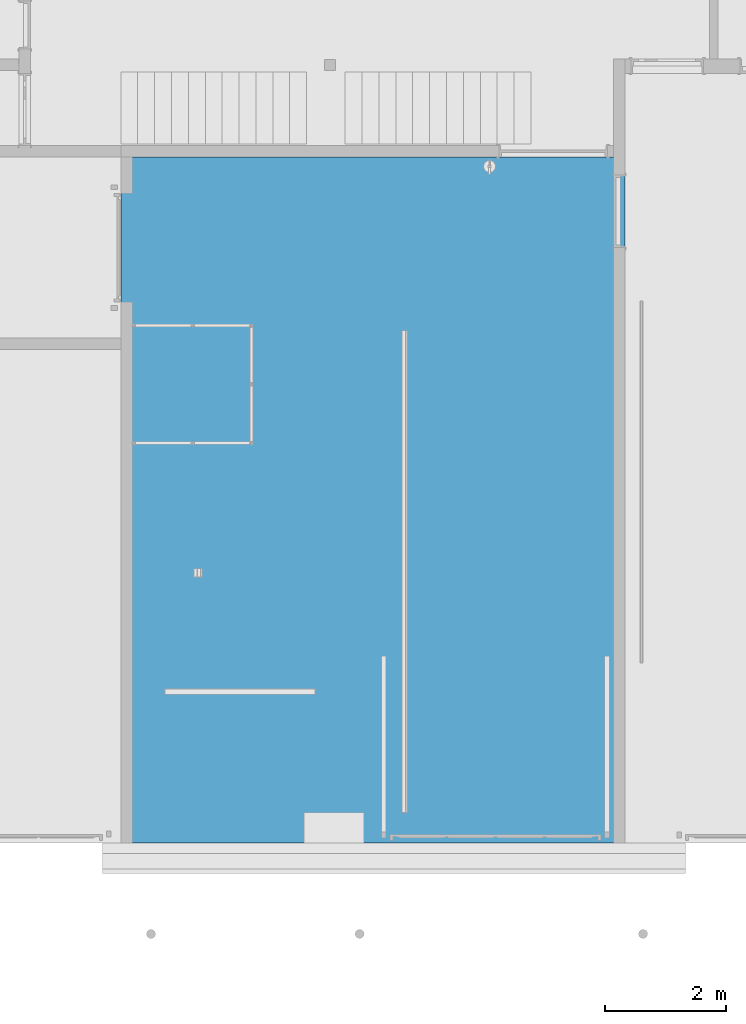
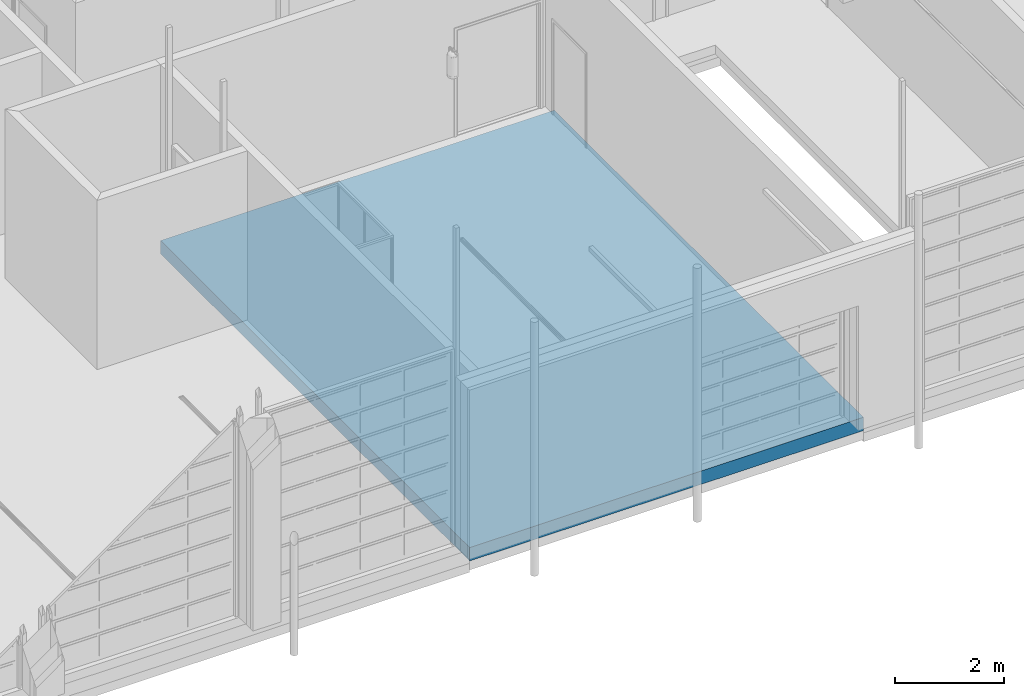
# One storey, part 52 of 112: 1 building element part, 1 element without a shape of its own.
"""IFC2X3 building model written with IfcOpenShell, lengths in millimetres."""

from ifc_helpers import new_model, entity, si_unit, converted_unit, derived_unit, money_unit, direction, frame, origin_with_axes, place, context, subcontext, project, spatial, polyline, outline, extrude, boolean, faceted_brep, material, type_object, element, aggregate, save


model = new_model("IFC2X3")

# Units and contexts
model_context = context("Model", 3, precision=0.01, world=origin_with_axes(), true_north=direction((0.0, 1.0)))
body_context = subcontext(model_context, "Body", "Model", "MODEL_VIEW")
ifc_project = project(units=[si_unit("LENGTHUNIT", "METRE", prefix="MILLI"), si_unit("AREAUNIT", "SQUARE_METRE"), si_unit("VOLUMEUNIT", "CUBIC_METRE"), converted_unit("PLANEANGLEUNIT", "DEGREE", entity("IfcPlaneAngleMeasure", 0.0174532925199), si_unit("PLANEANGLEUNIT", "RADIAN"), dimensions=[0, 0, 0, 0, 0, 0, 0]), si_unit("SOLIDANGLEUNIT", "STERADIAN"), money_unit("EUR"), converted_unit("TIMEUNIT", "Year", entity("IfcTimeMeasure", 31556926.0), si_unit("TIMEUNIT", "SECOND"), dimensions=[0, 0, 1, 0, 0, 0, 0]), si_unit("MASSUNIT", "GRAM", prefix="KILO"), si_unit("THERMODYNAMICTEMPERATUREUNIT", "DEGREE_CELSIUS"), si_unit("LUMINOUSINTENSITYUNIT", "LUMEN"), si_unit("ENERGYUNIT", "JOULE", prefix="MEGA"), derived_unit("THERMALCONDUCTANCEUNIT", [(si_unit("POWERUNIT", "WATT"), 1), (si_unit("LENGTHUNIT", "METRE"), -1), (si_unit("THERMODYNAMICTEMPERATUREUNIT", "KELVIN"), -1)]), derived_unit("SPECIFICHEATCAPACITYUNIT", [(si_unit("ENERGYUNIT", "JOULE"), 1), (si_unit("MASSUNIT", "GRAM", prefix="KILO"), -1), (si_unit("THERMODYNAMICTEMPERATUREUNIT", "KELVIN"), -1)]), derived_unit("MASSDENSITYUNIT", [(si_unit("MASSUNIT", "GRAM", prefix="KILO"), 1), (si_unit("VOLUMEUNIT", "CUBIC_METRE"), -1)])], contexts=[model_context])

# Site, building, storey
site_placement = place(None, origin_with_axes())
site = spatial("IfcSite", under=ifc_project, at=site_placement, Name="Politse- ja Piirivalveameti ning Päästeameti ühishoone", CompositionType="ELEMENT")
building_placement = place(site_placement, origin_with_axes())
building = spatial("IfcBuilding", under=site, at=building_placement, Name="Politse- ja Piirivalveameti ning Päästeameti ühishoone", CompositionType="ELEMENT")
storey_placement = place(building_placement, origin_with_axes())
storey = spatial("IfcBuildingStorey", under=building, at=storey_placement, Name="Esimene korrus", CompositionType="ELEMENT", Elevation=0.0)

# Slab, building element part
slab_type = type_object("IfcSlabType", Name="PP-02_Põrand pinnasel 650", PredefinedType="NOTDEFINED")
slab_placement = place(storey_placement, frame((18400.0881112, 0.0, 0.0), z_axis=(0.0, 0.0, 1.0), x_axis=(1.0, 0.0, 0.0)))
slab = element("IfcSlab", 1, at=slab_placement, inside=storey, type_object=slab_type, Name="PP-02", PredefinedType="NOTDEFINED")
ifc_material = material(Name="SOJ-02_Soojustus - Fiiber Kõva")
building_element_part_placement = place(slab_placement, origin_with_axes())
building_element_part = element("IfcBuildingElementPart", 2, at=building_element_part_placement, material=ifc_material, Name="SOJ-02_Soojustus - Fiiber Kõva", context=body_context, shape_type="CSG", body=[
    boolean("DIFFERENCE", boolean("DIFFERENCE", boolean("DIFFERENCE", extrude(outline(polyline([(0.0, 0.0), (8359.61277161, 0.0), (8359.61277161, 11370.0198611), (0.0, 11370.0198611), (0.0, 0.0)])), frame((0.0, 0.0, -450.0), z_axis=(0.0, 0.0, 1.0), x_axis=(1.0, 0.0, 0.0)), (0.0, 0.0, 1.0), 300.0), faceted_brep([(1207.58914778, 4402.69233354, 0.0), (1357.58914778, 4402.69233354, 0.0), (1357.58914778, 4552.69233354, 0.0), (1207.58914778, 4552.69233354, 0.0), (1207.58914778, 4402.69233354, -100.0), (1357.58914778, 4402.69233354, -100.0), (1357.58914778, 4552.69233354, -100.0), (1207.58914778, 4552.69233354, -100.0), (1212.58914778, 4547.69233354, -100.0), (1212.58914778, 4522.19233354, -100.0), (1212.58914778, 4520.19233354, -100.0), (1212.58914778, 4493.19233354, -100.0), (1212.58914778, 4491.19233354, -100.0), (1212.58914778, 4464.19233354, -100.0), (1212.58914778, 4462.19233354, -100.0), (1212.58914778, 4435.19233354, -100.0), (1212.58914778, 4433.19233354, -100.0), (1212.58914778, 4407.69233354, -100.0), (1238.08914778, 4407.69233354, -100.0), (1240.08914778, 4407.69233354, -100.0), (1267.08914778, 4407.69233354, -100.0), (1269.08914778, 4407.69233354, -100.0), (1296.08914778, 4407.69233354, -100.0), (1298.08914778, 4407.69233354, -100.0), (1325.08914778, 4407.69233354, -100.0), (1327.08914778, 4407.69233354, -100.0), (1352.58914778, 4407.69233354, -100.0), (1352.58914778, 4433.19233354, -100.0), (1352.58914778, 4435.19233354, -100.0), (1352.58914778, 4462.19233354, -100.0), (1352.58914778, 4464.19233354, -100.0), (1352.58914778, 4491.19233354, -100.0), (1352.58914778, 4493.19233354, -100.0), (1352.58914778, 4520.19233354, -100.0), (1352.58914778, 4522.19233354, -100.0), (1352.58914778, 4547.69233354, -100.0), (1327.08914778, 4547.69233354, -100.0), (1327.08914778, 4522.19233354, -100.0), (1327.08914778, 4520.19233354, -100.0), (1327.08914778, 4493.19233354, -100.0), (1327.08914778, 4491.19233354, -100.0), (1327.08914778, 4464.19233354, -100.0), (1327.08914778, 4462.19233354, -100.0), (1327.08914778, 4435.19233354, -100.0), (1327.08914778, 4433.19233354, -100.0), (1325.08914778, 4433.19233354, -100.0), (1325.08914778, 4435.19233354, -100.0), (1325.08914778, 4462.19233354, -100.0), (1325.08914778, 4464.19233354, -100.0), (1325.08914778, 4491.19233354, -100.0), (1325.08914778, 4493.19233354, -100.0), (1325.08914778, 4520.19233354, -100.0), (1325.08914778, 4522.19233354, -100.0), (1325.08914778, 4547.69233354, -100.0), (1298.08914778, 4547.69233354, -100.0), (1298.08914778, 4522.19233354, -100.0), (1298.08914778, 4520.19233354, -100.0), (1298.08914778, 4493.19233354, -100.0), (1298.08914778, 4491.19233354, -100.0), (1298.08914778, 4464.19233354, -100.0), (1298.08914778, 4462.19233354, -100.0), (1298.08914778, 4435.19233354, -100.0), (1298.08914778, 4433.19233354, -100.0), (1296.08914778, 4433.19233354, -100.0), (1296.08914778, 4435.19233354, -100.0), (1296.08914778, 4462.19233354, -100.0), (1296.08914778, 4464.19233354, -100.0), (1296.08914778, 4491.19233354, -100.0), (1296.08914778, 4493.19233354, -100.0), (1296.08914778, 4520.19233354, -100.0), (1296.08914778, 4522.19233354, -100.0), (1296.08914778, 4547.69233354, -100.0), (1269.08914748, 4547.69233354, -100.0), (1269.08914778, 4522.19233354, -100.0), (1269.08914778, 4520.19233354, -100.0), (1269.08914778, 4493.19233354, -100.0), (1269.08914778, 4491.19233354, -100.0), (1269.08914778, 4464.19233354, -100.0), (1269.08914778, 4462.19233354, -100.0), (1269.08914778, 4435.19233354, -100.0), (1269.08914778, 4433.19233354, -100.0), (1267.08914778, 4433.19233354, -100.0), (1267.08914778, 4435.19233354, -100.0), (1267.08914778, 4462.19233354, -100.0), (1267.08914778, 4464.19233354, -100.0), (1267.08914778, 4491.19233354, -100.0), (1267.08914778, 4493.19233354, -100.0), (1267.08914778, 4520.19233354, -100.0), (1267.08914778, 4522.19233354, -100.0), (1267.08914778, 4547.69233354, -100.0), (1240.08914748, 4547.69233354, -100.0), (1240.08914778, 4522.19233354, -100.0), (1240.08914778, 4520.19233354, -100.0), (1240.08914778, 4493.19233354, -100.0), (1240.08914778, 4491.19233354, -100.0), (1240.08914778, 4464.19233354, -100.0), (1240.08914778, 4462.19233354, -100.0), (1240.08914778, 4435.19233354, -100.0), (1240.08914778, 4433.19233354, -100.0), (1238.08914778, 4433.19233354, -100.0), (1238.08914778, 4435.19233354, -100.0), (1238.08914778, 4462.19233354, -100.0), (1238.08914778, 4464.19233354, -100.0), (1238.08914778, 4491.19233354, -100.0), (1238.08914778, 4493.19233354, -100.0), (1238.08914778, 4520.19233354, -100.0), (1238.08914778, 4522.19233354, -100.0), (1238.08914778, 4547.69233354, -100.0), (1212.58914778, 4547.69233354, -56.35), (1212.58914778, 4522.19233354, -56.35), (1212.58914778, 4520.19233354, -56.35), (1212.58914778, 4493.19233354, -56.35), (1212.58914778, 4491.19233354, -56.35), (1212.58914778, 4464.19233354, -56.35), (1212.58914778, 4462.19233354, -56.35), (1212.58914778, 4435.19233354, -56.35), (1212.58914778, 4433.19233354, -56.35), (1212.58914778, 4407.69233354, -56.35), (1238.08914778, 4407.69233354, -56.35), (1240.08914778, 4407.69233354, -56.35), (1267.08914778, 4407.69233354, -56.35), (1269.08914778, 4407.69233354, -56.35), (1296.08914778, 4407.69233354, -56.35), (1298.08914778, 4407.69233354, -56.35), (1325.08914778, 4407.69233354, -56.35), (1327.08914778, 4407.69233354, -56.35), (1352.58914778, 4407.69233354, -56.35), (1352.58914778, 4433.19233354, -56.35), (1352.58914778, 4435.19233354, -56.35), (1352.58914778, 4462.19233354, -56.35), (1352.58914778, 4464.19233354, -56.35), (1352.58914778, 4491.19233354, -56.35), (1352.58914778, 4493.19233354, -56.35), (1352.58914778, 4520.19233354, -56.35), (1352.58914778, 4522.19233354, -56.35), (1352.58914778, 4547.69233354, -56.35), (1327.08914778, 4547.69233354, -56.35), (1327.08914778, 4522.19233354, -56.35), (1327.08914778, 4520.19233354, -56.35), (1327.08914778, 4493.19233354, -56.35), (1327.08914778, 4491.19233354, -56.35), (1327.08914778, 4464.19233354, -56.35), (1327.08914778, 4462.19233354, -56.35), (1327.08914778, 4435.19233354, -56.35), (1327.08914778, 4433.19233354, -56.35), (1325.08914778, 4433.19233354, -56.35), (1325.08914778, 4435.19233354, -56.35), (1325.08914778, 4462.19233354, -56.35), (1325.08914778, 4464.19233354, -56.35), (1325.08914778, 4491.19233354, -56.35), (1325.08914778, 4493.19233354, -56.35), (1325.08914778, 4520.19233354, -56.35), (1325.08914778, 4522.19233354, -56.35), (1325.08914778, 4547.69233354, -56.35), (1298.08914778, 4547.69233354, -56.35), (1298.08914778, 4522.19233354, -56.35), (1298.08914778, 4520.19233354, -56.35), (1298.08914778, 4493.19233354, -56.35), (1298.08914778, 4491.19233354, -56.35), (1298.08914778, 4464.19233354, -56.35), (1298.08914778, 4462.19233354, -56.35), (1298.08914778, 4435.19233354, -56.35), (1298.08914778, 4433.19233354, -56.35), (1296.08914778, 4433.19233354, -56.35), (1296.08914778, 4435.19233354, -56.35), (1296.08914778, 4462.19233354, -56.35), (1296.08914778, 4464.19233354, -56.35), (1296.08914778, 4491.19233354, -56.35), (1296.08914778, 4493.19233354, -56.35), (1296.08914778, 4520.19233354, -56.35), (1296.08914778, 4522.19233354, -56.35), (1296.08914778, 4547.69233354, -56.35), (1269.08914748, 4547.69233354, -56.35), (1269.08914778, 4522.19233354, -56.35), (1269.08914778, 4520.19233354, -56.35), (1269.08914778, 4493.19233354, -56.35), (1269.08914778, 4491.19233354, -56.35), (1269.08914778, 4464.19233354, -56.35), (1269.08914778, 4462.19233354, -56.35), (1269.08914778, 4435.19233354, -56.35), (1269.08914778, 4433.19233354, -56.35), (1267.08914778, 4433.19233354, -56.35), (1267.08914778, 4435.19233354, -56.35), (1267.08914778, 4462.19233354, -56.35), (1267.08914778, 4464.19233354, -56.35), (1267.08914778, 4491.19233354, -56.35), (1267.08914778, 4493.19233354, -56.35), (1267.08914778, 4520.19233354, -56.35), (1267.08914778, 4522.19233354, -56.35), (1267.08914778, 4547.69233354, -56.35), (1240.08914748, 4547.69233354, -56.35), (1240.08914778, 4522.19233354, -56.35), (1240.08914778, 4520.19233354, -56.35), (1240.08914778, 4493.19233354, -56.35), (1240.08914778, 4491.19233354, -56.35), (1240.08914778, 4464.19233354, -56.35), (1240.08914778, 4462.19233354, -56.35), (1240.08914778, 4435.19233354, -56.35), (1240.08914778, 4433.19233354, -56.35), (1238.08914778, 4433.19233354, -56.35), (1238.08914778, 4435.19233354, -56.35), (1238.08914778, 4462.19233354, -56.35), (1238.08914778, 4464.19233354, -56.35), (1238.08914778, 4491.19233354, -56.35), (1238.08914778, 4493.19233354, -56.35), (1238.08914778, 4520.19233354, -56.35), (1238.08914778, 4522.19233354, -56.35), (1238.08914778, 4547.69233354, -56.35)], [[[0, 1, 2, 3]], [[1, 0, 4, 5]], [[2, 1, 5, 6]], [[3, 2, 6, 7]], [[0, 3, 7, 4]], [[7, 8, 9, 10, 11, 12, 13, 14, 15, 16, 17, 18, 19, 20, 21, 22, 23, 24, 25, 26, 27, 28, 29, 30, 31, 32, 33, 34, 35, 6, 5, 4]], [[8, 7, 6, 35, 36, 37, 38, 39, 40, 41, 42, 43, 44, 25, 24, 45, 46, 47, 48, 49, 50, 51, 52, 53, 54, 55, 56, 57, 58, 59, 60, 61, 62, 23, 22, 63, 64, 65, 66, 67, 68, 69, 70, 71, 72, 73, 74, 75, 76, 77, 78, 79, 80, 21, 20, 81, 82, 83, 84, 85, 86, 87, 88, 89, 90, 91, 92, 93, 94, 95, 96, 97, 98, 19, 18, 99, 100, 101, 102, 103, 104, 105, 106, 107]], [[9, 8, 108, 109]], [[106, 105, 10, 9]], [[11, 10, 110, 111]], [[104, 103, 12, 11]], [[13, 12, 112, 113]], [[102, 101, 14, 13]], [[15, 14, 114, 115]], [[100, 99, 16, 15]], [[17, 16, 116, 117]], [[18, 17, 117, 118]], [[20, 19, 119, 120]], [[22, 21, 121, 122]], [[24, 23, 123, 124]], [[26, 25, 125, 126]], [[27, 26, 126, 127]], [[27, 44, 43, 28]], [[29, 28, 128, 129]], [[29, 42, 41, 30]], [[31, 30, 130, 131]], [[40, 39, 32, 31]], [[33, 32, 132, 133]], [[33, 38, 37, 34]], [[35, 34, 134, 135]], [[135, 136, 36, 35]], [[37, 36, 136, 137]], [[39, 38, 138, 139]], [[41, 40, 140, 141]], [[43, 42, 142, 143]], [[144, 125, 25, 44]], [[45, 24, 124, 145]], [[62, 61, 46, 45]], [[47, 46, 146, 147]], [[47, 60, 59, 48]], [[49, 48, 148, 149]], [[58, 57, 50, 49]], [[51, 50, 150, 151]], [[51, 56, 55, 52]], [[53, 52, 152, 153]], [[153, 154, 54, 53]], [[55, 54, 154, 155]], [[57, 56, 156, 157]], [[59, 58, 158, 159]], [[61, 60, 160, 161]], [[23, 62, 162, 123]], [[63, 22, 122, 163]], [[80, 79, 64, 63]], [[65, 64, 164, 165]], [[65, 78, 77, 66]], [[67, 66, 166, 167]], [[67, 76, 75, 68]], [[69, 68, 168, 169]], [[74, 73, 70, 69]], [[71, 70, 170, 171]], [[171, 172, 72, 71]], [[73, 72, 172, 173]], [[75, 74, 174, 175]], [[77, 76, 176, 177]], [[79, 78, 178, 179]], [[21, 80, 180, 121]], [[120, 181, 81, 20]], [[82, 81, 98, 97]], [[83, 82, 182, 183]], [[83, 96, 95, 84]], [[85, 84, 184, 185]], [[85, 94, 93, 86]], [[87, 86, 186, 187]], [[88, 87, 92, 91]], [[89, 88, 188, 189]], [[189, 190, 90, 89]], [[91, 90, 190, 191]], [[93, 92, 192, 193]], [[95, 94, 194, 195]], [[97, 96, 196, 197]], [[19, 98, 198, 119]], [[99, 18, 118, 199]], [[101, 100, 200, 201]], [[103, 102, 202, 203]], [[105, 104, 204, 205]], [[107, 106, 206, 207]], [[207, 108, 8, 107]], [[206, 109, 108, 207]], [[106, 9, 109, 206]], [[205, 110, 10, 105]], [[111, 110, 205, 204]], [[104, 11, 111, 204]], [[203, 112, 12, 103]], [[113, 112, 203, 202]], [[102, 13, 113, 202]], [[201, 114, 14, 101]], [[115, 114, 201, 200]], [[100, 15, 115, 200]], [[199, 116, 16, 99]], [[118, 117, 116, 199]], [[119, 198, 181, 120]], [[163, 122, 121, 180]], [[145, 124, 123, 162]], [[127, 126, 125, 144]], [[127, 144, 44, 27]], [[28, 43, 143, 128]], [[129, 128, 143, 142]], [[129, 142, 42, 29]], [[30, 41, 141, 130]], [[130, 141, 140, 131]], [[131, 140, 40, 31]], [[32, 39, 139, 132]], [[132, 139, 138, 133]], [[133, 138, 38, 33]], [[34, 37, 137, 134]], [[135, 134, 137, 136]], [[145, 162, 62, 45]], [[46, 61, 161, 146]], [[147, 146, 161, 160]], [[147, 160, 60, 47]], [[48, 59, 159, 148]], [[148, 159, 158, 149]], [[149, 158, 58, 49]], [[50, 57, 157, 150]], [[157, 156, 151, 150]], [[151, 156, 56, 51]], [[52, 55, 155, 152]], [[152, 155, 154, 153]], [[163, 180, 80, 63]], [[64, 79, 179, 164]], [[179, 178, 165, 164]], [[165, 178, 78, 65]], [[66, 77, 177, 166]], [[177, 176, 167, 166]], [[167, 176, 76, 67]], [[68, 75, 175, 168]], [[168, 175, 174, 169]], [[169, 174, 74, 69]], [[70, 73, 173, 170]], [[170, 173, 172, 171]], [[181, 198, 98, 81]], [[82, 97, 197, 182]], [[197, 196, 183, 182]], [[183, 196, 96, 83]], [[84, 95, 195, 184]], [[184, 195, 194, 185]], [[185, 194, 94, 85]], [[86, 93, 193, 186]], [[187, 186, 193, 192]], [[187, 192, 92, 87]], [[88, 91, 191, 188]], [[188, 191, 190, 189]]])), faceted_brep([(726.641850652, 2458.00929481, 0.0), (3226.64185065, 2458.00929481, 0.0), (3226.64185065, 2558.00930971, 0.0), (726.641850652, 2558.00930971, 0.0), (726.641850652, 2458.00929481, -100.0), (3226.64185065, 2458.00929481, -100.0), (3226.64185065, 2558.00930971, -100.0), (726.641850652, 2558.00930971, -100.0), (731.641865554, 2553.00929481, -100.0), (731.641865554, 2463.00930971, -100.0), (1975.64185065, 2463.00929481, -100.0), (1977.64185065, 2463.00929481, -100.0), (3221.64185065, 2463.00929481, -100.0), (3221.64185065, 2491.17596148, -100.0), (3221.64185065, 2493.17597444, -100.0), (3221.64185065, 2522.84262815, -100.0), (3221.64185065, 2524.84262815, -100.0), (3221.64185065, 2553.00929481, -100.0), (1977.64185065, 2553.00929481, -100.0), (1975.64185065, 2553.00929481, -100.0), (731.641850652, 2524.84262815, -100.0), (1975.64185065, 2524.84262815, -100.0), (1977.64185065, 2524.84262815, -100.0), (1977.64185065, 2522.84262815, -100.0), (1975.64185065, 2522.84262815, -100.0), (731.641850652, 2522.84262815, -100.0), (731.641850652, 2493.17596148, -100.0), (1975.64185065, 2493.17596148, -100.0), (1977.64185065, 2493.17596148, -100.0), (1977.64185065, 2491.17596148, -100.0), (1975.64185065, 2491.17596148, -100.0), (731.641850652, 2491.17596148, -100.0), (731.641865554, 2463.00930971, -56.35), (1975.64185065, 2463.00929481, -56.35), (1977.64185065, 2463.00929481, -56.35), (3221.64185065, 2463.00929481, -56.35), (3221.64185065, 2491.17596148, -56.35), (3221.64185065, 2493.17597444, -56.35), (3221.64185065, 2522.84262815, -56.35), (3221.64185065, 2524.84262815, -56.35), (3221.64185065, 2553.00929481, -56.35), (1977.64185065, 2553.00929481, -56.35), (1975.64185065, 2553.00929481, -56.35), (731.641865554, 2553.00929481, -56.35), (731.641850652, 2524.84262815, -56.35), (1975.64185065, 2524.84262815, -56.35), (1977.64185065, 2524.84262815, -56.35), (1977.64185065, 2522.84262815, -56.35), (1975.64185065, 2522.84262815, -56.35), (731.641850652, 2522.84262815, -56.35), (731.641850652, 2493.17596148, -56.35), (1975.64185065, 2493.17596148, -56.35), (1977.64185065, 2493.17596148, -56.35), (1977.64185065, 2491.17596148, -56.35), (1975.64185065, 2491.17596148, -56.35), (731.641850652, 2491.17596148, -56.35)], [[[0, 1, 2, 3]], [[1, 0, 4, 5]], [[2, 1, 5, 6]], [[3, 2, 6, 7]], [[0, 3, 7, 4]], [[8, 7, 6, 5, 4, 9, 10, 11, 12, 13, 14, 15, 16, 17, 18, 19]], [[7, 8, 20, 21, 22, 16, 15, 23, 24, 25, 26, 27, 28, 14, 13, 29, 30, 31, 9, 4]], [[9, 32, 33, 10]], [[11, 10, 30, 29]], [[11, 34, 35, 12]], [[12, 35, 36, 13]], [[14, 37, 38, 15]], [[16, 39, 40, 17]], [[17, 40, 41, 18]], [[22, 21, 19, 18]], [[19, 42, 43, 8]], [[44, 20, 8, 43]], [[20, 44, 45, 21]], [[39, 16, 22, 46]], [[15, 38, 47, 23]], [[27, 24, 23, 28]], [[24, 48, 49, 25]], [[50, 26, 25, 49]], [[26, 50, 51, 27]], [[37, 14, 28, 52]], [[53, 29, 13, 36]], [[30, 54, 55, 31]], [[32, 9, 31, 55]], [[33, 32, 55, 54]], [[10, 33, 54, 30]], [[34, 11, 29, 53]], [[35, 34, 53, 36]], [[38, 37, 52, 47]], [[39, 46, 41, 40]], [[46, 22, 18, 41]], [[21, 45, 42, 19]], [[45, 44, 43, 42]], [[52, 28, 23, 47]], [[27, 51, 48, 24]], [[51, 50, 49, 48]]])), faceted_brep([(4658.86340806, 497.35908012, 0.0), (4758.86340806, 497.35908012, 0.0), (4758.86340806, 8497.35908012, 0.0), (4658.86340806, 8497.35908012, 0.0), (4658.86340806, 497.35908012, -100.0), (4758.86340806, 497.35908012, -100.0), (4758.86340806, 8497.35908012, -100.0), (4658.86340806, 8497.35908012, -100.0), (4663.86340806, 8492.35908012, -100.0), (4663.86340806, 4498.35908012, -100.0), (4663.86340806, 4496.35908012, -100.0), (4663.86340806, 502.35908012, -100.0), (4692.03007473, 502.35908012, -100.0), (4694.03007473, 502.35908012, -100.0), (4723.6967414, 502.35908012, -100.0), (4725.6967414, 502.35908012, -100.0), (4753.86340806, 502.35908012, -100.0), (4753.86340806, 4496.35908012, -100.0), (4753.86340806, 4498.35908012, -100.0), (4753.86340806, 8492.35908012, -100.0), (4725.69671785, 8492.35908012, -100.0), (4725.6967414, 4498.35908012, -100.0), (4725.6967414, 4496.35908012, -100.0), (4723.6967414, 4496.35908012, -100.0), (4723.6967414, 4498.35908012, -100.0), (4723.6967414, 8492.35908012, -100.0), (4694.03005119, 8492.35908012, -100.0), (4694.03007473, 4498.35908012, -100.0), (4694.03007473, 4496.35908012, -100.0), (4692.03007473, 4496.35908012, -100.0), (4692.03007473, 4498.35908012, -100.0), (4692.03007473, 8492.35908012, -100.0), (4663.86340806, 8492.35908012, -56.35), (4663.86340806, 4498.35908012, -56.35), (4663.86340806, 4496.35908012, -56.35), (4663.86340806, 502.35908012, -56.35), (4692.03007473, 502.35908012, -56.35), (4694.03007473, 502.35908012, -56.35), (4723.6967414, 502.35908012, -56.35), (4725.6967414, 502.35908012, -56.35), (4753.86340806, 502.35908012, -56.35), (4753.86340806, 4496.35908012, -56.35), (4753.86340806, 4498.35908012, -56.35), (4753.86340806, 8492.35908012, -56.35), (4725.69671785, 8492.35908012, -56.35), (4725.6967414, 4498.35908012, -56.35), (4725.6967414, 4496.35908012, -56.35), (4723.6967414, 4496.35908012, -56.35), (4723.6967414, 4498.35908012, -56.35), (4723.6967414, 8492.35908012, -56.35), (4694.03005119, 8492.35908012, -56.35), (4694.03007473, 4498.35908012, -56.35), (4694.03007473, 4496.35908012, -56.35), (4692.03007473, 4496.35908012, -56.35), (4692.03007473, 4498.35908012, -56.35), (4692.03007473, 8492.35908012, -56.35)], [[[0, 1, 2, 3]], [[1, 0, 4, 5]], [[2, 1, 5, 6]], [[3, 2, 6, 7]], [[0, 3, 7, 4]], [[7, 8, 9, 10, 11, 12, 13, 14, 15, 16, 17, 18, 19, 6, 5, 4]], [[8, 7, 6, 19, 20, 21, 22, 15, 14, 23, 24, 25, 26, 27, 28, 13, 12, 29, 30, 31]], [[32, 33, 9, 8]], [[9, 30, 29, 10]], [[34, 35, 11, 10]], [[35, 36, 12, 11]], [[37, 38, 14, 13]], [[39, 40, 16, 15]], [[40, 41, 17, 16]], [[21, 18, 17, 22]], [[42, 43, 19, 18]], [[20, 19, 43, 44]], [[44, 45, 21, 20]], [[15, 22, 46, 39]], [[38, 47, 23, 14]], [[24, 23, 28, 27]], [[48, 49, 25, 24]], [[26, 25, 49, 50]], [[50, 51, 27, 26]], [[13, 28, 52, 37]], [[29, 12, 36, 53]], [[54, 55, 31, 30]], [[8, 31, 55, 32]], [[33, 32, 55, 54]], [[33, 54, 30, 9]], [[10, 29, 53, 34]], [[34, 53, 36, 35]], [[37, 52, 47, 38]], [[46, 41, 40, 39]], [[22, 17, 41, 46]], [[45, 42, 18, 21]], [[45, 44, 43, 42]], [[28, 23, 47, 52]], [[51, 48, 24, 27]], [[50, 49, 48, 51]]])),
])
aggregate(slab, [building_element_part])

save(model, "model.ifc")
